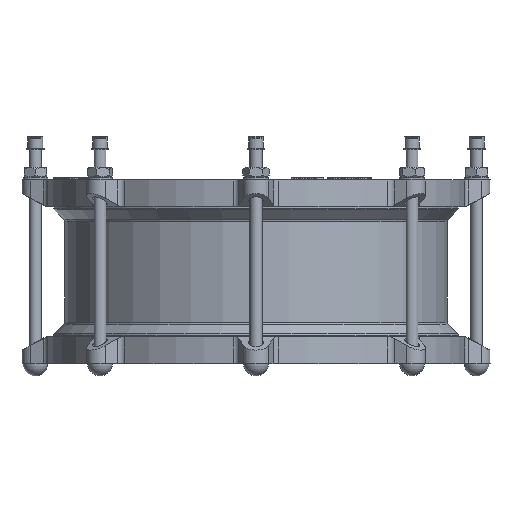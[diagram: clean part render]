
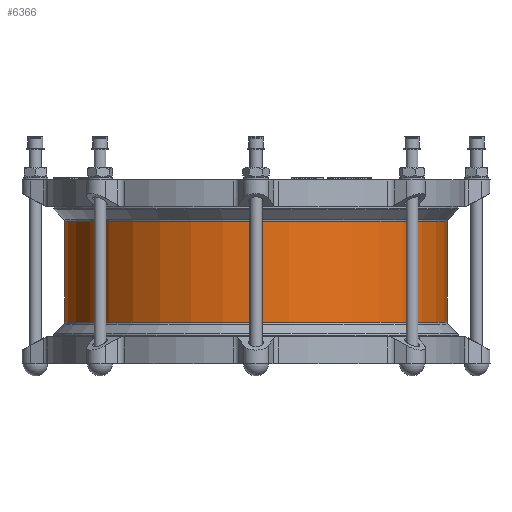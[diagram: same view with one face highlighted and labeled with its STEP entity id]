
A CAD part, front view. The second image highlights one B-rep face of the part: STEP entity #6366.
In plain terms, the highlighted cylindrical face has radius 186 mm (diameter 372 mm), a full revolution.
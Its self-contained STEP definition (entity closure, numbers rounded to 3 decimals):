
#6366=ADVANCED_FACE('',(#11773,#11775),#11777,.T.);
#11773=FACE_OUTER_BOUND('',#11774,.T.);
#11774=EDGE_LOOP('',(#17541));
#11775=FACE_OUTER_BOUND('',#11776,.T.);
#11776=EDGE_LOOP('',(#17542));
#11777=CYLINDRICAL_SURFACE('',#11778,186.);
#11778=AXIS2_PLACEMENT_3D('',#11779,#11780,#11781);
#11779=CARTESIAN_POINT('',(0.,0.,50.257));
#11780=DIRECTION('',(0.,0.,-1.));
#11781=DIRECTION('',(0.,1.,0.));
#17541=ORIENTED_EDGE('',*,*,#19973,.T.);
#17542=ORIENTED_EDGE('',*,*,#19974,.F.);
#19973=EDGE_CURVE('',#23375,#23375,#23376,.T.);
#19974=EDGE_CURVE('',#23377,#23377,#23378,.T.);
#23375=VERTEX_POINT('',#35976);
#23376=CIRCLE('',#35977,186.);
#23377=VERTEX_POINT('',#35981);
#23378=CIRCLE('',#35982,186.);
#35976=CARTESIAN_POINT('',(0.,186.,49.015));
#35977=AXIS2_PLACEMENT_3D('',#35978,#35979,#35980);
#35978=CARTESIAN_POINT('',(0.,0.,49.015));
#35979=DIRECTION('',(0.,0.,-1.));
#35980=DIRECTION('',(0.,1.,0.));
#35981=CARTESIAN_POINT('',(0.,186.,-49.015));
#35982=AXIS2_PLACEMENT_3D('',#35983,#35984,#35985);
#35983=CARTESIAN_POINT('',(0.,0.,-49.015));
#35984=DIRECTION('',(0.,0.,-1.));
#35985=DIRECTION('',(0.,1.,0.));
